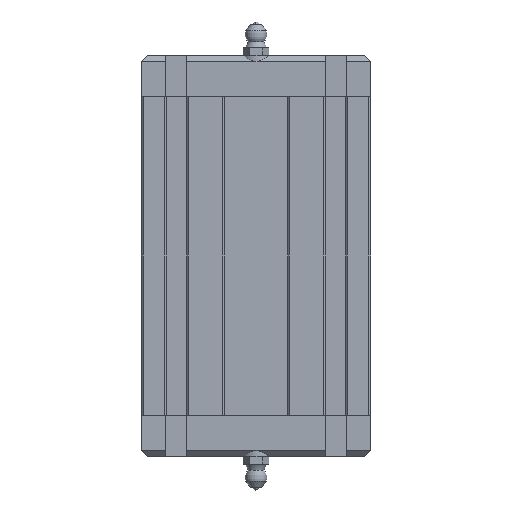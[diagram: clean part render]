
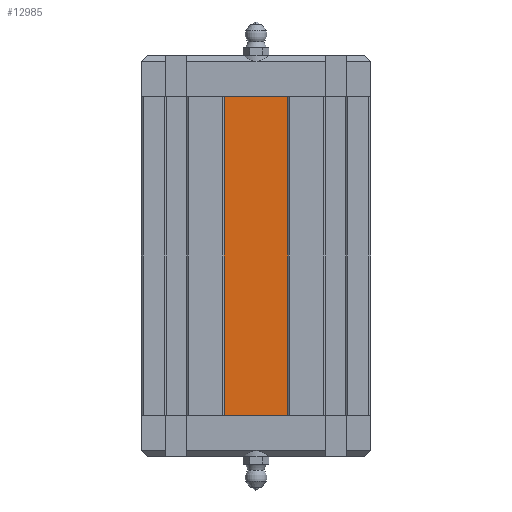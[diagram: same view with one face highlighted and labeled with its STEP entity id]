
A CAD part, front view. The second image highlights one B-rep face of the part: STEP entity #12985.
In plain terms, the highlighted planar face has unit normal (0, -1, 0).
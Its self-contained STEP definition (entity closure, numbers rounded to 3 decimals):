
#5025 = CARTESIAN_POINT ( 'NONE',  ( 10., -28., -75. ) ) ;
#5026 = DIRECTION ( 'NONE',  ( 0., 0., 1. ) ) ;
#5027 = VECTOR ( 'NONE', #5026, 1000. ) ;
#5028 = CARTESIAN_POINT ( 'NONE',  ( 10., -28., -25. ) ) ;
#5029 = LINE ( 'NONE', #5028, #5027 ) ;
#5030 = CARTESIAN_POINT ( 'NONE',  ( 10., -28., 25. ) ) ;
#5078 = DIRECTION ( 'NONE',  ( -1., 0., 0. ) ) ;
#5079 = VECTOR ( 'NONE', #5078, 1000. ) ;
#5080 = CARTESIAN_POINT ( 'NONE',  ( 21.75, -28., -75. ) ) ;
#5081 = LINE ( 'NONE', #5080, #5079 ) ;
#5083 = DIRECTION ( 'NONE',  ( -1., 0., 0. ) ) ;
#5084 = VECTOR ( 'NONE', #5083, 1000. ) ;
#5085 = CARTESIAN_POINT ( 'NONE',  ( 21.75, -28., 25. ) ) ;
#5086 = LINE ( 'NONE', #5085, #5084 ) ;
#5087 = DIRECTION ( 'NONE',  ( 0., 0., -1. ) ) ;
#5088 = DIRECTION ( 'NONE',  ( 0., -1., 0. ) ) ;
#5089 = CARTESIAN_POINT ( 'NONE',  ( 10., -28., -25. ) ) ;
#5090 = AXIS2_PLACEMENT_3D ( 'NONE', #5089, #5088, #5087 ) ;
#5091 = PLANE ( 'NONE',  #5090 ) ;
#5092 = FACE_OUTER_BOUND ( 'NONE', #12986, .T. ) ;
#5115 = DIRECTION ( 'NONE',  ( 0., 0., 1. ) ) ;
#5116 = VECTOR ( 'NONE', #5115, 1000. ) ;
#5117 = CARTESIAN_POINT ( 'NONE',  ( -10., -28., -25. ) ) ;
#5118 = LINE ( 'NONE', #5117, #5116 ) ;
#5119 = CARTESIAN_POINT ( 'NONE',  ( -10., -28., -75. ) ) ;
#5124 = CARTESIAN_POINT ( 'NONE',  ( -10., -28., 25. ) ) ;
#12958 = VERTEX_POINT ( 'NONE', #5030 ) ;
#12960 = EDGE_CURVE ( 'NONE', #12961, #12958, #5029, .T. ) ;
#12961 = VERTEX_POINT ( 'NONE', #5025 ) ;
#12967 = VERTEX_POINT ( 'NONE', #5124 ) ;
#12971 = VERTEX_POINT ( 'NONE', #5119 ) ;
#12973 = EDGE_CURVE ( 'NONE', #12971, #12967, #5118, .T. ) ;
#12985 = ADVANCED_FACE ( 'NONE', ( #5092 ), #5091, .T. ) ;
#12986 = EDGE_LOOP ( 'NONE', ( #12987, #12988, #12990, #12991 ) ) ;
#12987 = ORIENTED_EDGE ( 'NONE', *, *, #12960, .T. ) ;
#12988 = ORIENTED_EDGE ( 'NONE', *, *, #12989, .T. ) ;
#12989 = EDGE_CURVE ( 'NONE', #12958, #12967, #5086, .T. ) ;
#12990 = ORIENTED_EDGE ( 'NONE', *, *, #12973, .F. ) ;
#12991 = ORIENTED_EDGE ( 'NONE', *, *, #12992, .F. ) ;
#12992 = EDGE_CURVE ( 'NONE', #12961, #12971, #5081, .T. ) ;
